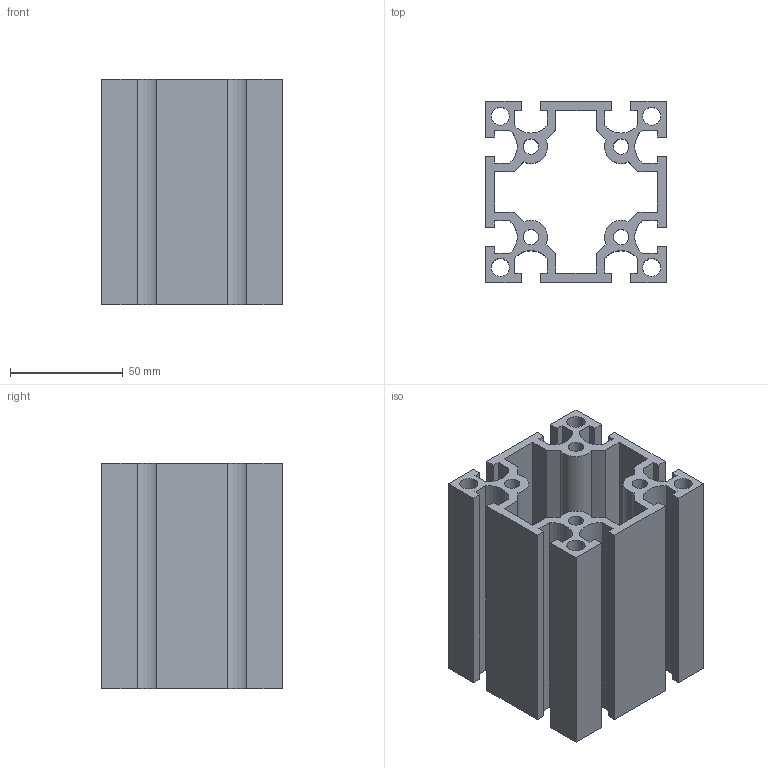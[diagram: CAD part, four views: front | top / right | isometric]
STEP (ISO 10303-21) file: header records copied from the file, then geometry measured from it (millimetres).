
FILE_DESCRIPTION(/* description */ ('Unknown'),/* implementation_level */ '2;1');
FILE_NAME(/* name */ 'NM8080',/* time_stamp */ '2026-08-31T11:41:20+08:00',/* author */ ('Unknown'),/* organization */ ('Unknown'),/* preprocessor_version */ 'ST-DEVELOPER v16.7',/* originating_system */ 'DEX',/* authorisation */ $);
FILE_SCHEMA (('AUTOMOTIVE_DESIGN {1 0 10303 214 3 1 1}'));
Length unit declared in the file: millimetre
Products named in the file (1): 8080-
Bounding box: 80 x 80 x 100 mm (x, y, z)
Volume: 199497.5 mm3; surface area: 109118.4 mm2
Topology: 1 solids, 1 shells, 102 faces, 300 edges, 200 vertices
Faces by surface type: plane 82, cylinder 20
Full cylindrical faces by diameter (mm): 6.8 x4, 8 x4
Entity records: 3390 total; most frequent: CARTESIAN_POINT 595, ORIENTED_EDGE 584, DIRECTION 538, EDGE_CURVE 292, LINE 252, VECTOR 252, VERTEX_POINT 200, AXIS2_PLACEMENT_3D 143
